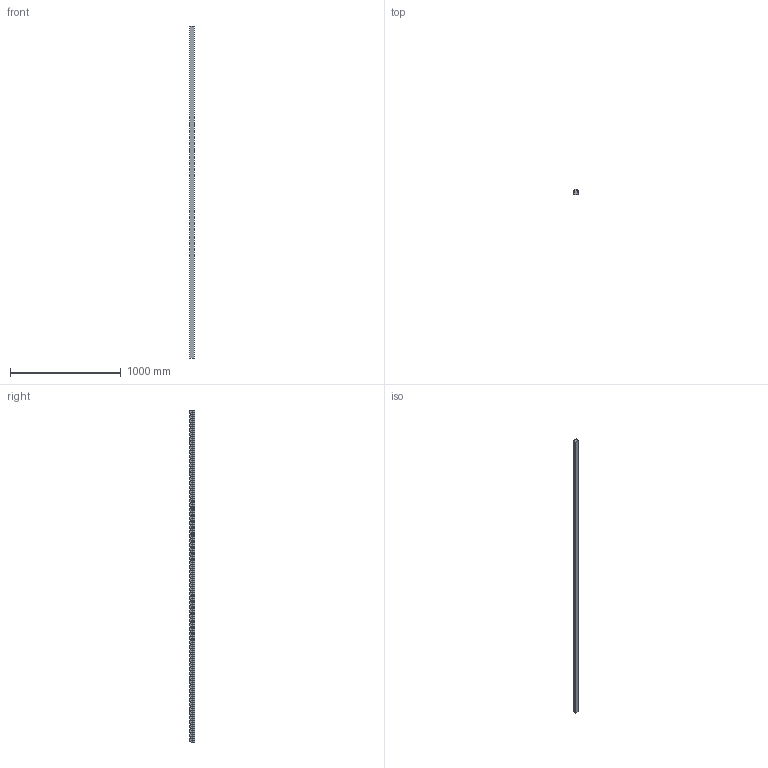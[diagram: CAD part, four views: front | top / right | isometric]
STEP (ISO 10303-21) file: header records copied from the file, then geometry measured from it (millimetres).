
FILE_DESCRIPTION (( 'STEP AP214' ), '1' );
FILE_NAME ('JB-50030A4.step', '2024-02-15T05:01:48', ( 'catia' ), ( 'HP Inc.' ), 'SwSTEP 2.0', 'SolidWorks 2021', '' );
FILE_SCHEMA (( 'AUTOMOTIVE_DESIGN' ));
Length unit declared in the file: millimetre
Products named in the file (1): JB-50030A4
Bounding box: 40 x 46 x 3000 mm (x, y, z)
Volume: 4189698.2 mm3; surface area: 569733.9 mm2
Topology: 1 solids, 1 shells, 239 faces, 486 edges, 324 vertices
Faces by surface type: plane 164, cylinder 75
Entity records: 6304 total; most frequent: DIRECTION 1116, CARTESIAN_POINT 1050, ORIENTED_EDGE 972, EDGE_CURVE 486, AXIS2_PLACEMENT_3D 390, VECTOR 336, LINE 336, VERTEX_POINT 324
